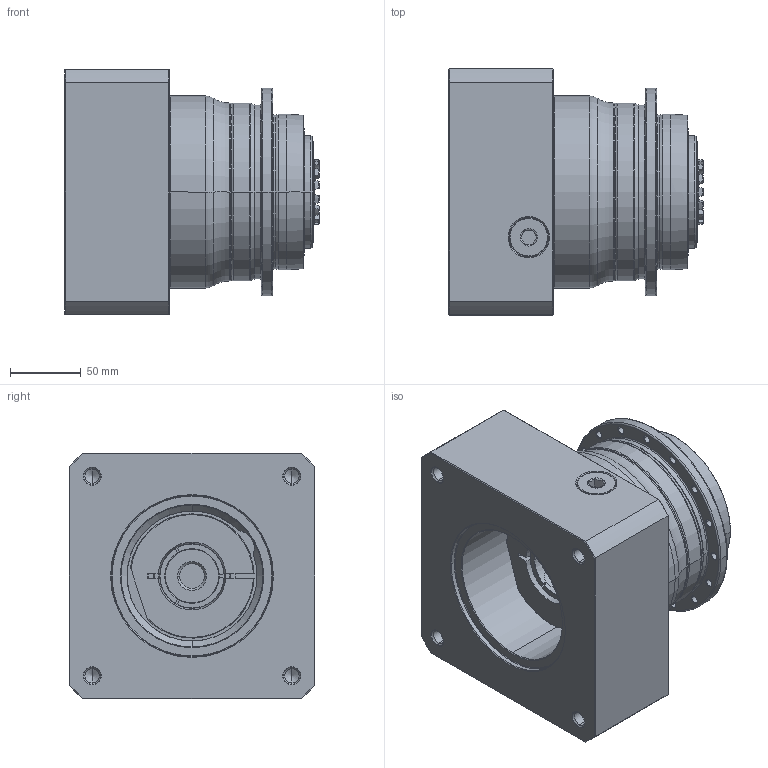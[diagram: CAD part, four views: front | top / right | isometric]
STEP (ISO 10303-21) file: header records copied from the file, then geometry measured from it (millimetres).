
FILE_DESCRIPTION((''),'2;1');
FILE_NAME('APC110_1ST_38-P0409910201_ASM','2018-06-11T',('d01226'),(''),'PRO/ENGINEER BY PARAMETRIC TECHNOLOGY CORPORATION, 2008410','PRO/ENGINEER BY PARAMETRIC TECHNOLOGY CORPORATION, 2008410','');
FILE_SCHEMA(('CONFIG_CONTROL_DESIGN'));
Length unit declared in the file: millimetre
Products named in the file (9): P0278400003; P03594C0103; P1318410501; P0503900012; P0912455001; P1211400001; P0409910201; 21711422019; APC110_1ST_38-P0409910201_ASM
Assembly tree (8 placements, depth 2):
  APC110_1ST_38-P0409910201_ASM
    P0278400003
    P03594C0103
    P1318410501
    P0503900012
    P0912455001
    P1211400001
    P0409910201
    21711422019
Bounding box: 179.9 x 174 x 174 mm (x, y, z)
Volume: 2890211.3 mm3; surface area: 343744 mm2
Topology: 9 solids, 20 shells, 616 faces, 1476 edges, 901 vertices
Faces by surface type: cylinder 196, cone 190, plane 119, torus 97, bspline 14
Entity records: 23188 total; most frequent: CARTESIAN_POINT 8515, DIRECTION 3275, ORIENTED_EDGE 2874, EDGE_CURVE 1458, AXIS2_PLACEMENT_3D 1422, VERTEX_POINT 901, CIRCLE 793, EDGE_LOOP 703
